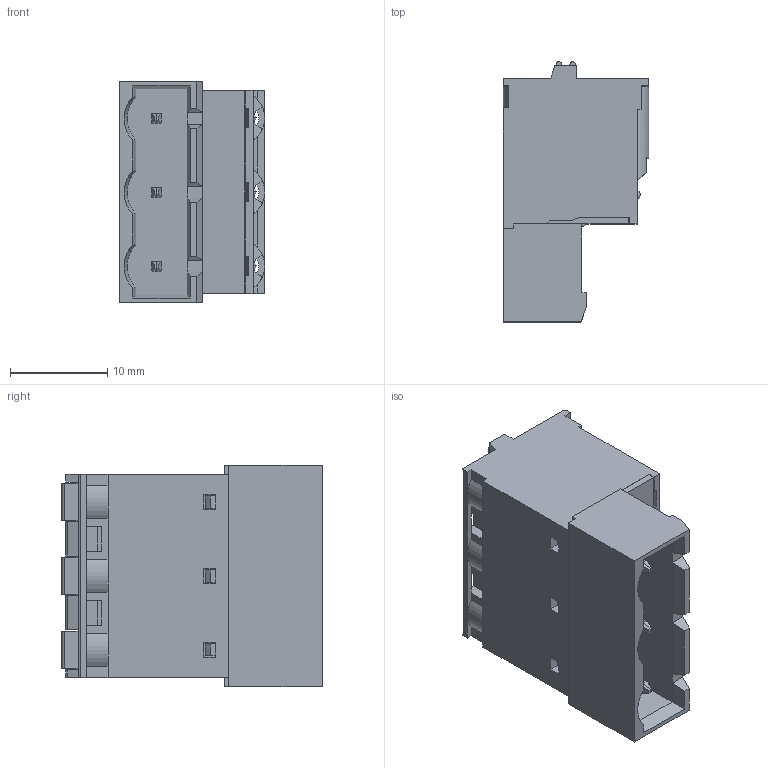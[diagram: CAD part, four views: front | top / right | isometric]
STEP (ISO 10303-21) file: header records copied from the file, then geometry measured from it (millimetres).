
FILE_DESCRIPTION((''),'2;1');
FILE_NAME('3PIN_SW0001','2019-05-29T',('zhenbing.lai'),(''),'CREO PARAMETRIC BY PTC INC, 2016260','CREO PARAMETRIC BY PTC INC, 2016260','');
FILE_SCHEMA(('CONFIG_CONTROL_DESIGN'));
Length unit declared in the file: millimetre
Products named in the file (1): 3PIN_SW0001
Bounding box: 15 x 26.8 x 22.84 mm (x, y, z)
Volume: 5321.1 mm3; surface area: 3382.4 mm2
Topology: 1 solids, 5 shells, 398 faces, 1087 edges, 701 vertices
Faces by surface type: plane 333, cylinder 50, sphere 9, cone 3, bspline 3
Entity records: 12527 total; most frequent: CARTESIAN_POINT 2440, ORIENTED_EDGE 2156, DIRECTION 1956, EDGE_CURVE 1078, VECTOR 888, LINE 888, VERTEX_POINT 701, AXIS2_PLACEMENT_3D 534
